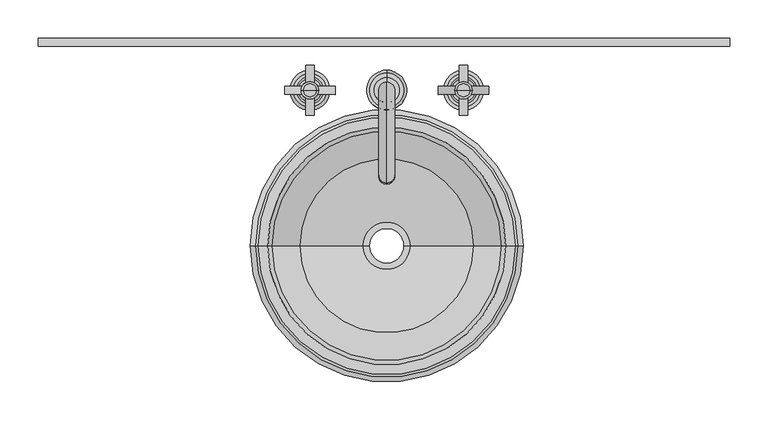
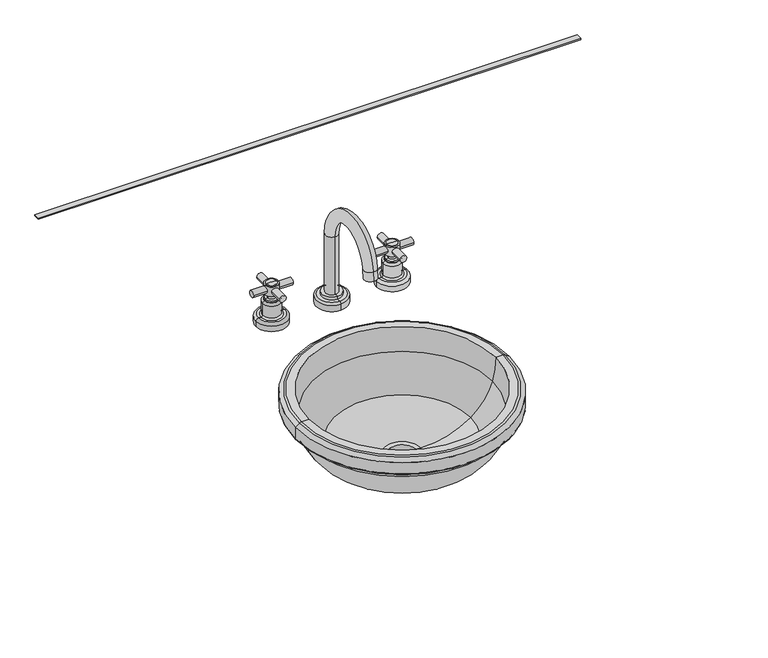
"""IFC4 building model written with IfcOpenShell, lengths in millimetres: furniture geometry, Mueble para Baño 6 : Único."""

from ifc_helpers import new_model, si_unit, point, frame, frame_2d, origin, place, context, project, spatial, polyline, circle_curve, ellipse_curve, trimmed, segment, composite_curve, outline, extrude, source, transform, mapped, element, save
from ifc_brep_helpers import plane_surface, cylinder_surface, revolved_surface, advanced_brep


def furniture_608dc11b(model_context):
    return source(origin(), model_context, "Body", "SolidModel", [
        extrude(outline(composite_curve([segment(trimmed(circle_curve(frame_2d((0.0, -5.4999999)), 5.5), [point((0.0, -11.0))], [point((0.0, 0.0))], False, "CARTESIAN"), True, "CONTINUOUS"), segment(trimmed(circle_curve(frame_2d((0.0, -5.4999999)), 5.5), [point((0.0, 0.0))], [point((0.0, -11.0))], False, "CARTESIAN"), True, "CONTINUOUS")], self_intersect=False)), frame((-63.6836472, -78.0672767, 1059.2357292), z_axis=(-0.9999993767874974, 0.0011164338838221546, 0.0), x_axis=(0.0, 0.0, -1.0)), (0.0, 0.0, 1.0), 65.6152585),
        extrude(outline(composite_curve([segment(trimmed(circle_curve(frame_2d((1059.2357292, -96.4851156)), 5.5), [point((1059.2357292, -90.9851156))], [point((1059.2357292, -101.9851156))], False, "CARTESIAN"), True, "CONTINUOUS"), segment(trimmed(circle_curve(frame_2d((1059.2357292, -96.4851156)), 5.5), [point((1059.2357292, -101.9851156))], [point((1059.2357292, -90.9851156))], False, "CARTESIAN"), True, "CONTINUOUS")], self_intersect=False)), frame((0.0, -105.3382819, 0.0), z_axis=(0.0, 1.0, 0.0), x_axis=(0.0, 0.0, 1.0)), (0.0, 0.0, 1.0), 65.6152585),
        advanced_brep(
        [(-118.4851156, -72.5, 1013.5), (-74.4851156, -72.5, 1013.5), (-70.4851156, -72.5, 1009.5), (-122.4851156, -72.5, 1009.5), (-114.4851156, -72.5, 1013.5), (-78.4851156, -72.5, 1013.5), (-96.4851156, -72.5, 1068.9), (-88.1085595, -72.5, 1068.4308463), (-104.8616718, -72.5, 1068.4308463), (-88.1085595, -72.5, 1067.3782178), (-104.8616718, -72.5, 1067.3782178), (-85.1732786, -72.5, 1067.3782178), (-107.7969527, -72.5, 1067.3782178), (-85.1732786, -72.5, 1051.2186869), (-107.7969527, -72.5, 1051.2186869), (-90.4851156, -72.5, 1051.2186869), (-102.4851156, -72.5, 1051.2186869), (-90.4851156, -72.5, 1043.25), (-102.4851156, -72.5, 1043.25), (-85.9851156, -72.5, 1042.75), (-106.9851156, -72.5, 1042.75), (-85.9851156, -72.5, 1040.25), (-106.9851156, -72.5, 1040.25), (-84.9851156, -72.5, 1040.25), (-107.9851156, -72.5, 1040.25), (-81.4851156, -72.5, 1036.75), (-111.4851156, -72.5, 1036.75), (-81.4851156, -72.5, 1016.5), (-111.4851156, -72.5, 1016.5), (-70.4851156, -72.5, 1000.0), (-122.4851156, -72.5, 1000.0), (-96.4851156, -72.5, 1000.0)],
        [
            (0, 1, circle_curve(frame((-96.4851156, -72.5, 1013.5), z_axis=(0.0, 0.0, -1.0), x_axis=(1.0, 0.0, 0.0)), 22.0)),
            (1, 2, circle_curve(frame((-74.4851156, -72.5, 1009.5), z_axis=(0.0, 1.0, 0.0), x_axis=(1.0, 0.0, 0.0)), 4.0)),
            (2, 3, circle_curve(frame((-96.4851156, -72.5, 1009.5), z_axis=(0.0, 0.0, 1.0), x_axis=(1.0, 0.0, 0.0)), 26.0)),
            (3, 0, circle_curve(frame((-118.4851156, -72.5, 1009.5), z_axis=(0.0, 1.0, 0.0), x_axis=(-1.0, 0.0, 0.0)), 4.0)),
            (1, 0, circle_curve(frame((-96.4851156, -72.5, 1013.5), z_axis=(0.0, 0.0, -1.0), x_axis=(1.0, 0.0, 0.0)), 22.0)),
            (3, 2, circle_curve(frame((-96.4851156, -72.5, 1009.5), z_axis=(0.0, 0.0, 1.0), x_axis=(1.0, 0.0, 0.0)), 26.0)),
            (4, 5, circle_curve(frame((-96.4851156, -72.5, 1013.5), z_axis=(0.0, 0.0, -1.0), x_axis=(1.0, 0.0, 0.0)), 18.0)),
            (5, 1),
            (0, 4),
            (5, 4, circle_curve(frame((-96.4851156, -72.5, 1013.5), z_axis=(0.0, 0.0, -1.0), x_axis=(1.0, 0.0, 0.0)), 18.0)),
            (6, 7, circle_curve(frame((-99.5198443, -72.5, 939.7014544), z_axis=(0.0, 1.0, 0.0), x_axis=(-1.0, 0.0, 0.0)), 129.2341819)),
            (7, 8, circle_curve(frame((-96.4851156, -72.5, 1068.4308463), z_axis=(0.0, 0.0, 1.0), x_axis=(1.0, 0.0, 0.0)), 8.3765562)),
            (8, 6, circle_curve(frame((-93.450387, -72.5, 939.7014544), z_axis=(0.0, 1.0, 0.0), x_axis=(1.0, 0.0, 0.0)), 129.2341819)),
            (8, 7, circle_curve(frame((-96.4851156, -72.5, 1068.4308463), z_axis=(0.0, 0.0, 1.0), x_axis=(1.0, 0.0, 0.0)), 8.3765562)),
            (7, 9),
            (9, 10, circle_curve(frame((-96.4851156, -72.5, 1067.3782178), z_axis=(0.0, 0.0, 1.0), x_axis=(1.0, 0.0, 0.0)), 8.3765562)),
            (10, 8),
            (10, 9, circle_curve(frame((-96.4851156, -72.5, 1067.3782178), z_axis=(0.0, 0.0, 1.0), x_axis=(1.0, 0.0, 0.0)), 8.3765562)),
            (9, 11),
            (11, 12, circle_curve(frame((-96.4851156, -72.5, 1067.3782178), z_axis=(0.0, 0.0, 1.0), x_axis=(1.0, 0.0, 0.0)), 11.3118371)),
            (12, 10),
            (12, 11, circle_curve(frame((-96.4851156, -72.5, 1067.3782178), z_axis=(0.0, 0.0, 1.0), x_axis=(1.0, 0.0, 0.0)), 11.3118371)),
            (11, 13),
            (13, 14, circle_curve(frame((-96.4851156, -72.5, 1051.2186869), z_axis=(0.0, 0.0, 1.0), x_axis=(1.0, 0.0, 0.0)), 11.3118371)),
            (14, 12),
            (14, 13, circle_curve(frame((-96.4851156, -72.5, 1051.2186869), z_axis=(0.0, 0.0, 1.0), x_axis=(1.0, 0.0, 0.0)), 11.3118371)),
            (13, 15),
            (15, 16, circle_curve(frame((-96.4851156, -72.5, 1051.2186869), z_axis=(0.0, 0.0, 1.0), x_axis=(1.0, 0.0, 0.0)), 6.0)),
            (16, 14),
            (16, 15, circle_curve(frame((-96.4851156, -72.5, 1051.2186869), z_axis=(0.0, 0.0, 1.0), x_axis=(1.0, 0.0, 0.0)), 6.0)),
            (15, 17),
            (17, 18, circle_curve(frame((-96.4851156, -72.5, 1043.25), z_axis=(0.0, 0.0, 1.0), x_axis=(1.0, 0.0, 0.0)), 6.0)),
            (18, 16),
            (18, 17, circle_curve(frame((-96.4851156, -72.5, 1043.25), z_axis=(0.0, 0.0, 1.0), x_axis=(1.0, 0.0, 0.0)), 6.0)),
            (17, 19),
            (19, 20, circle_curve(frame((-96.4851156, -72.5, 1042.75), z_axis=(0.0, 0.0, 1.0), x_axis=(1.0, 0.0, 0.0)), 10.5)),
            (20, 18),
            (20, 19, circle_curve(frame((-96.4851156, -72.5, 1042.75), z_axis=(0.0, 0.0, 1.0), x_axis=(1.0, 0.0, 0.0)), 10.5)),
            (19, 21),
            (21, 22, circle_curve(frame((-96.4851156, -72.5, 1040.25), z_axis=(0.0, 0.0, 1.0), x_axis=(1.0, 0.0, 0.0)), 10.5)),
            (22, 20),
            (22, 21, circle_curve(frame((-96.4851156, -72.5, 1040.25), z_axis=(0.0, 0.0, 1.0), x_axis=(1.0, 0.0, 0.0)), 10.5)),
            (21, 23),
            (23, 24, circle_curve(frame((-96.4851156, -72.5, 1040.25), z_axis=(0.0, 0.0, 1.0), x_axis=(1.0, 0.0, 0.0)), 11.5)),
            (24, 22),
            (24, 23, circle_curve(frame((-96.4851156, -72.5, 1040.25), z_axis=(0.0, 0.0, 1.0), x_axis=(1.0, 0.0, 0.0)), 11.5)),
            (23, 25, circle_curve(frame((-84.9851156, -72.5, 1036.75), z_axis=(0.0, 1.0, 0.0), x_axis=(-1.0, 0.0, 0.0)), 3.5)),
            (25, 26, circle_curve(frame((-96.4851156, -72.5, 1036.75), z_axis=(0.0, 0.0, 1.0), x_axis=(1.0, 0.0, 0.0)), 15.0)),
            (26, 24, circle_curve(frame((-107.9851156, -72.5, 1036.75), z_axis=(0.0, 1.0, 0.0), x_axis=(1.0, 0.0, 0.0)), 3.5)),
            (26, 25, circle_curve(frame((-96.4851156, -72.5, 1036.75), z_axis=(0.0, 0.0, 1.0), x_axis=(1.0, 0.0, 0.0)), 15.0)),
            (25, 27),
            (27, 28, circle_curve(frame((-96.4851156, -72.5, 1016.5), z_axis=(0.0, 0.0, 1.0), x_axis=(1.0, 0.0, 0.0)), 15.0)),
            (28, 26),
            (28, 27, circle_curve(frame((-96.4851156, -72.5, 1016.5), z_axis=(0.0, 0.0, 1.0), x_axis=(1.0, 0.0, 0.0)), 15.0)),
            (27, 5, circle_curve(frame((-78.4851156, -72.5, 1016.5), z_axis=(0.0, -1.0, 0.0), x_axis=(-1.0, 0.0, 0.0)), 3.0)),
            (4, 28, circle_curve(frame((-114.4851156, -72.5, 1016.5), z_axis=(0.0, -1.0, 0.0), x_axis=(1.0, 0.0, 0.0)), 3.0)),
            (2, 29),
            (29, 30, circle_curve(frame((-96.4851156, -72.5, 1000.0), z_axis=(0.0, 0.0, 1.0), x_axis=(1.0, 0.0, 0.0)), 26.0)),
            (30, 3),
            (30, 29, circle_curve(frame((-96.4851156, -72.5, 1000.0), z_axis=(0.0, 0.0, 1.0), x_axis=(1.0, 0.0, 0.0)), 26.0)),
            (29, 31),
            (31, 30),
        ],
        [
            revolved_surface(trimmed(ellipse_curve(frame((-74.4851156, -72.5, 1009.5), z_axis=(0.0, -1.0, 0.0), x_axis=(1.0, 0.0, 0.0)), 4.0, 4.0), [point((-70.4851156, -72.5, 1009.5))], [point((-74.4851156, -72.5, 1013.5))], True, "CARTESIAN"), (-96.4851156, -72.5, 1051.2186869), (0.0, 0.0, 1.0)),
            plane_surface(frame((-96.4851156, -72.5, 1013.5), z_axis=(0.0, 0.0, 1.0), x_axis=(1.0, 0.0, 0.0))),
            revolved_surface(trimmed(ellipse_curve(frame((-99.5198443, -72.5, 939.7014544), z_axis=(0.0, -1.0, 0.0), x_axis=(-1.0, 0.0, 0.0)), 129.2341819, 129.2341819), [point((-88.1085595, -72.5, 1068.4308463))], [point((-96.4851156, -72.5, 1068.9))], True, "CARTESIAN"), (-96.4851156, -72.5, 1051.2186869), (0.0, 0.0, 1.0)),
            cylinder_surface(frame((-96.4851156, -72.5, 1051.2186869), z_axis=(0.0, 0.0, 1.0), x_axis=(1.0, 0.0, 0.0)), 8.3765562),
            plane_surface(frame((-96.4851156, -72.5, 1067.3782178), z_axis=(0.0, 0.0, 1.0), x_axis=(1.0, 0.0, 0.0))),
            cylinder_surface(frame((-96.4851156, -72.5, 1051.2186869), z_axis=(0.0, 0.0, 1.0), x_axis=(1.0, 0.0, 0.0)), 11.3118371),
            plane_surface(frame((-96.4851156, -72.5, 1051.2186869), z_axis=(0.0, 0.0, -1.0), x_axis=(1.0, 0.0, 0.0))),
            cylinder_surface(frame((-96.4851156, -72.5, 1051.2186869), z_axis=(0.0, 0.0, 1.0), x_axis=(1.0, 0.0, 0.0)), 6.0),
            revolved_surface(polyline([(-85.9851156, -72.5, 1042.75), (-90.4851156, -72.5, 1043.25)]), (-96.4851156, -72.5, 1051.2186869), (0.0, 0.0, 1.0)),
            cylinder_surface(frame((-96.4851156, -72.5, 1051.2186869), z_axis=(0.0, 0.0, 1.0), x_axis=(1.0, 0.0, 0.0)), 10.5),
            plane_surface(frame((-96.4851156, -72.5, 1040.25), z_axis=(0.0, 0.0, 1.0), x_axis=(1.0, 0.0, 0.0))),
            revolved_surface(trimmed(ellipse_curve(frame((-84.9851156, -72.5, 1036.75), z_axis=(0.0, -1.0, 0.0), x_axis=(-1.0, 0.0, 0.0)), 3.5, 3.5), [point((-81.4851156, -72.5, 1036.75))], [point((-84.9851156, -72.5, 1040.25))], True, "CARTESIAN"), (-96.4851156, -72.5, 1051.2186869), (0.0, 0.0, 1.0)),
            cylinder_surface(frame((-96.4851156, -72.5, 1051.2186869), z_axis=(0.0, 0.0, 1.0), x_axis=(1.0, 0.0, 0.0)), 15.0),
            revolved_surface(trimmed(ellipse_curve(frame((-78.4851156, -72.5, 1016.5), z_axis=(0.0, 1.0, 0.0), x_axis=(-1.0, 0.0, 0.0)), 3.0, 3.0), [point((-78.4851156, -72.5, 1013.5))], [point((-81.4851156, -72.5, 1016.5))], True, "CARTESIAN"), (-96.4851156, -72.5, 1051.2186869), (0.0, 0.0, 1.0)),
            cylinder_surface(frame((-96.4851156, -72.5, 1051.2186869), z_axis=(0.0, 0.0, 1.0), x_axis=(1.0, 0.0, 0.0)), 26.0),
            plane_surface(frame((-96.4851156, -72.5, 1000.0), z_axis=(0.0, 0.0, -1.0), x_axis=(1.0, 0.0, 0.0))),
        ],
        [
            (0, [[1, 2, 3, 4]]),
            (0, [[5, -4, 6, -2]]),
            (1, [[7, 8, -1, 9]]),
            (1, [[10, -9, -5, -8]]),
            (2, [[11, 12, 13]]),
            (2, [[-13, 14, -11]]),
            (3, [[-12, 15, 16, 17]]),
            (3, [[-14, -17, 18, -15]]),
            (4, [[-16, 19, 20, 21]]),
            (4, [[-18, -21, 22, -19]]),
            (5, [[-20, 23, 24, 25]]),
            (5, [[-22, -25, 26, -23]]),
            (6, [[-24, 27, 28, 29]]),
            (6, [[-26, -29, 30, -27]]),
            (7, [[-28, 31, 32, 33]]),
            (7, [[-30, -33, 34, -31]]),
            (8, [[-32, 35, 36, 37]]),
            (8, [[-34, -37, 38, -35]]),
            (9, [[-36, 39, 40, 41]]),
            (9, [[-38, -41, 42, -39]]),
            (10, [[-40, 43, 44, 45]]),
            (10, [[-42, -45, 46, -43]]),
            (11, [[-44, 47, 48, 49]]),
            (11, [[-46, -49, 50, -47]]),
            (12, [[-48, 51, 52, 53]]),
            (12, [[-50, -53, 54, -51]]),
            (13, [[-52, 55, -7, 56]]),
            (13, [[-54, -56, -10, -55]]),
            (14, [[-3, 57, 58, 59]]),
            (14, [[-6, -59, 60, -57]]),
            (15, [[-58, 61, 62]]),
            (15, [[-60, -62, -61]]),
        ],
    ),
        extrude(outline(composite_curve([segment(trimmed(circle_curve(frame_2d((0.0, -5.4999999)), 5.5), [point((0.0, -11.0))], [point((0.0, 0.0))], False, "CARTESIAN"), True, "CONTINUOUS"), segment(trimmed(circle_curve(frame_2d((0.0, -5.4999999)), 5.5), [point((0.0, 0.0))], [point((0.0, -11.0))], False, "CARTESIAN"), True, "CONTINUOUS")], self_intersect=False)), frame((70.7134159, -78.0672767, 1059.2357292), z_axis=(0.9999993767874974, 0.0011164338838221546, 0.0), x_axis=(0.0, 0.0, 1.0)), (0.0, 0.0, 1.0), 65.6152585),
        extrude(outline(composite_curve([segment(trimmed(circle_curve(frame_2d((1059.2357292, 103.5148844)), 5.5), [point((1059.2357292, 98.0148844))], [point((1059.2357292, 109.0148844))], False, "CARTESIAN"), True, "CONTINUOUS"), segment(trimmed(circle_curve(frame_2d((1059.2357292, 103.5148844)), 5.5), [point((1059.2357292, 109.0148844))], [point((1059.2357292, 98.0148844))], False, "CARTESIAN"), True, "CONTINUOUS")], self_intersect=False)), frame((0.0, -105.3382819, 0.0), z_axis=(0.0, 1.0, 0.0), x_axis=(0.0, 0.0, 1.0)), (0.0, 0.0, 1.0), 65.6152585),
        advanced_brep(
        [(129.5148844, -72.5, 1009.5), (77.5148844, -72.5, 1009.5), (81.5148844, -72.5, 1013.5), (125.5148844, -72.5, 1013.5), (85.5148844, -72.5, 1013.5), (121.5148844, -72.5, 1013.5), (111.8914405, -72.5, 1068.4308463), (95.1383282, -72.5, 1068.4308463), (103.5148844, -72.5, 1068.9), (111.8914405, -72.5, 1067.3782178), (95.1383282, -72.5, 1067.3782178), (114.8267214, -72.5, 1067.3782178), (92.2030473, -72.5, 1067.3782178), (114.8267214, -72.5, 1051.2186869), (92.2030473, -72.5, 1051.2186869), (109.5148844, -72.5, 1051.2186869), (97.5148844, -72.5, 1051.2186869), (109.5148844, -72.5, 1043.25), (97.5148844, -72.5, 1043.25), (114.0148844, -72.5, 1042.75), (93.0148844, -72.5, 1042.75), (114.0148844, -72.5, 1040.25), (93.0148844, -72.5, 1040.25), (115.0148844, -72.5, 1040.25), (92.0148844, -72.5, 1040.25), (118.5148844, -72.5, 1036.75), (88.5148844, -72.5, 1036.75), (118.5148844, -72.5, 1016.5), (88.5148844, -72.5, 1016.5), (129.5148844, -72.5, 1000.0), (77.5148844, -72.5, 1000.0), (103.5148844, -72.5, 1000.0)],
        [
            (0, 1, circle_curve(frame((103.5148844, -72.5, 1009.5), z_axis=(0.0, 0.0, 1.0), x_axis=(-1.0, 0.0, 0.0)), 26.0)),
            (1, 2, circle_curve(frame((81.5148844, -72.5, 1009.5), z_axis=(0.0, 1.0, 0.0), x_axis=(-1.0, 0.0, 0.0)), 4.0)),
            (2, 3, circle_curve(frame((103.5148844, -72.5, 1013.5), z_axis=(0.0, 0.0, -1.0), x_axis=(-1.0, 0.0, 0.0)), 22.0)),
            (3, 0, circle_curve(frame((125.5148844, -72.5, 1009.5), z_axis=(0.0, 1.0, 0.0), x_axis=(1.0, 0.0, 0.0)), 4.0)),
            (1, 0, circle_curve(frame((103.5148844, -72.5, 1009.5), z_axis=(0.0, 0.0, 1.0), x_axis=(-1.0, 0.0, 0.0)), 26.0)),
            (3, 2, circle_curve(frame((103.5148844, -72.5, 1013.5), z_axis=(0.0, 0.0, -1.0), x_axis=(-1.0, 0.0, 0.0)), 22.0)),
            (2, 4),
            (4, 5, circle_curve(frame((103.5148844, -72.5, 1013.5), z_axis=(0.0, 0.0, -1.0), x_axis=(-1.0, 0.0, 0.0)), 18.0)),
            (5, 3),
            (5, 4, circle_curve(frame((103.5148844, -72.5, 1013.5), z_axis=(0.0, 0.0, -1.0), x_axis=(-1.0, 0.0, 0.0)), 18.0)),
            (6, 7, circle_curve(frame((103.5148844, -72.5, 1068.4308463), z_axis=(0.0, 0.0, 1.0), x_axis=(-1.0, 0.0, 0.0)), 8.3765562)),
            (7, 8, circle_curve(frame((106.549613, -72.5, 939.7014544), z_axis=(0.0, 1.0, 0.0), x_axis=(1.0, 0.0, 0.0)), 129.2341819)),
            (8, 6, circle_curve(frame((100.4801557, -72.5, 939.7014544), z_axis=(0.0, 1.0, 0.0), x_axis=(-1.0, 0.0, 0.0)), 129.2341819)),
            (7, 6, circle_curve(frame((103.5148844, -72.5, 1068.4308463), z_axis=(0.0, 0.0, 1.0), x_axis=(-1.0, 0.0, 0.0)), 8.3765562)),
            (9, 10, circle_curve(frame((103.5148844, -72.5, 1067.3782178), z_axis=(0.0, 0.0, 1.0), x_axis=(-1.0, 0.0, 0.0)), 8.3765562)),
            (10, 7),
            (6, 9),
            (10, 9, circle_curve(frame((103.5148844, -72.5, 1067.3782178), z_axis=(0.0, 0.0, 1.0), x_axis=(-1.0, 0.0, 0.0)), 8.3765562)),
            (11, 12, circle_curve(frame((103.5148844, -72.5, 1067.3782178), z_axis=(0.0, 0.0, 1.0), x_axis=(-1.0, 0.0, 0.0)), 11.3118371)),
            (12, 10),
            (9, 11),
            (12, 11, circle_curve(frame((103.5148844, -72.5, 1067.3782178), z_axis=(0.0, 0.0, 1.0), x_axis=(-1.0, 0.0, 0.0)), 11.3118371)),
            (13, 14, circle_curve(frame((103.5148844, -72.5, 1051.2186869), z_axis=(0.0, 0.0, 1.0), x_axis=(-1.0, 0.0, 0.0)), 11.3118371)),
            (14, 12),
            (11, 13),
            (14, 13, circle_curve(frame((103.5148844, -72.5, 1051.2186869), z_axis=(0.0, 0.0, 1.0), x_axis=(-1.0, 0.0, 0.0)), 11.3118371)),
            (15, 16, circle_curve(frame((103.5148844, -72.5, 1051.2186869), z_axis=(0.0, 0.0, 1.0), x_axis=(-1.0, 0.0, 0.0)), 6.0)),
            (16, 14),
            (13, 15),
            (16, 15, circle_curve(frame((103.5148844, -72.5, 1051.2186869), z_axis=(0.0, 0.0, 1.0), x_axis=(-1.0, 0.0, 0.0)), 6.0)),
            (17, 18, circle_curve(frame((103.5148844, -72.5, 1043.25), z_axis=(0.0, 0.0, 1.0), x_axis=(-1.0, 0.0, 0.0)), 6.0)),
            (18, 16),
            (15, 17),
            (18, 17, circle_curve(frame((103.5148844, -72.5, 1043.25), z_axis=(0.0, 0.0, 1.0), x_axis=(-1.0, 0.0, 0.0)), 6.0)),
            (19, 20, circle_curve(frame((103.5148844, -72.5, 1042.75), z_axis=(0.0, 0.0, 1.0), x_axis=(-1.0, 0.0, 0.0)), 10.5)),
            (20, 18),
            (17, 19),
            (20, 19, circle_curve(frame((103.5148844, -72.5, 1042.75), z_axis=(0.0, 0.0, 1.0), x_axis=(-1.0, 0.0, 0.0)), 10.5)),
            (21, 22, circle_curve(frame((103.5148844, -72.5, 1040.25), z_axis=(0.0, 0.0, 1.0), x_axis=(-1.0, 0.0, 0.0)), 10.5)),
            (22, 20),
            (19, 21),
            (22, 21, circle_curve(frame((103.5148844, -72.5, 1040.25), z_axis=(0.0, 0.0, 1.0), x_axis=(-1.0, 0.0, 0.0)), 10.5)),
            (23, 24, circle_curve(frame((103.5148844, -72.5, 1040.25), z_axis=(0.0, 0.0, 1.0), x_axis=(-1.0, 0.0, 0.0)), 11.5)),
            (24, 22),
            (21, 23),
            (24, 23, circle_curve(frame((103.5148844, -72.5, 1040.25), z_axis=(0.0, 0.0, 1.0), x_axis=(-1.0, 0.0, 0.0)), 11.5)),
            (25, 26, circle_curve(frame((103.5148844, -72.5, 1036.75), z_axis=(0.0, 0.0, 1.0), x_axis=(-1.0, 0.0, 0.0)), 15.0)),
            (26, 24, circle_curve(frame((92.0148844, -72.5, 1036.75), z_axis=(0.0, 1.0, 0.0), x_axis=(1.0, 0.0, 0.0)), 3.5)),
            (23, 25, circle_curve(frame((115.0148844, -72.5, 1036.75), z_axis=(0.0, 1.0, 0.0), x_axis=(-1.0, 0.0, 0.0)), 3.5)),
            (26, 25, circle_curve(frame((103.5148844, -72.5, 1036.75), z_axis=(0.0, 0.0, 1.0), x_axis=(-1.0, 0.0, 0.0)), 15.0)),
            (27, 28, circle_curve(frame((103.5148844, -72.5, 1016.5), z_axis=(0.0, 0.0, 1.0), x_axis=(-1.0, 0.0, 0.0)), 15.0)),
            (28, 26),
            (25, 27),
            (28, 27, circle_curve(frame((103.5148844, -72.5, 1016.5), z_axis=(0.0, 0.0, 1.0), x_axis=(-1.0, 0.0, 0.0)), 15.0)),
            (4, 28, circle_curve(frame((85.5148844, -72.5, 1016.5), z_axis=(0.0, -1.0, 0.0), x_axis=(1.0, 0.0, 0.0)), 3.0)),
            (27, 5, circle_curve(frame((121.5148844, -72.5, 1016.5), z_axis=(0.0, -1.0, 0.0), x_axis=(-1.0, 0.0, 0.0)), 3.0)),
            (29, 30, circle_curve(frame((103.5148844, -72.5, 1000.0), z_axis=(0.0, 0.0, 1.0), x_axis=(-1.0, 0.0, 0.0)), 26.0)),
            (30, 1),
            (0, 29),
            (30, 29, circle_curve(frame((103.5148844, -72.5, 1000.0), z_axis=(0.0, 0.0, 1.0), x_axis=(-1.0, 0.0, 0.0)), 26.0)),
            (31, 30),
            (29, 31),
        ],
        [
            revolved_surface(trimmed(ellipse_curve(frame((81.5148844, -72.5, 1009.5), z_axis=(0.0, -1.0, 0.0), x_axis=(-1.0, 0.0, 0.0)), 4.0, 4.0), [point((81.5148844, -72.5, 1013.5))], [point((77.5148844, -72.5, 1009.5))], True, "CARTESIAN"), (103.5148844, -72.5, 1051.2186869), (0.0, 0.0, -1.0)),
            plane_surface(frame((103.5148844, -72.5, 1013.5), z_axis=(0.0, 0.0, 1.0), x_axis=(-1.0, 0.0, 0.0))),
            revolved_surface(trimmed(ellipse_curve(frame((106.549613, -72.5, 939.7014544), z_axis=(0.0, -1.0, 0.0), x_axis=(1.0, 0.0, 0.0)), 129.2341819, 129.2341819), [point((103.5148844, -72.5, 1068.9))], [point((95.1383282, -72.5, 1068.4308463))], True, "CARTESIAN"), (103.5148844, -72.5, 1051.2186869), (0.0, 0.0, -1.0)),
            cylinder_surface(frame((103.5148844, -72.5, 1051.2186869), z_axis=(0.0, 0.0, -1.0), x_axis=(-1.0, 0.0, 0.0)), 8.3765562),
            plane_surface(frame((103.5148844, -72.5, 1067.3782178), z_axis=(0.0, 0.0, 1.0), x_axis=(-1.0, 0.0, 0.0))),
            cylinder_surface(frame((103.5148844, -72.5, 1051.2186869), z_axis=(0.0, 0.0, -1.0), x_axis=(-1.0, 0.0, 0.0)), 11.3118371),
            plane_surface(frame((103.5148844, -72.5, 1051.2186869), z_axis=(0.0, 0.0, -1.0), x_axis=(-1.0, 0.0, 0.0))),
            cylinder_surface(frame((103.5148844, -72.5, 1051.2186869), z_axis=(0.0, 0.0, -1.0), x_axis=(-1.0, 0.0, 0.0)), 6.0),
            revolved_surface(polyline([(97.5148844, -72.5, 1043.25), (93.0148844, -72.5, 1042.75)]), (103.5148844, -72.5, 1051.2186869), (0.0, 0.0, -1.0)),
            cylinder_surface(frame((103.5148844, -72.5, 1051.2186869), z_axis=(0.0, 0.0, -1.0), x_axis=(-1.0, 0.0, 0.0)), 10.5),
            plane_surface(frame((103.5148844, -72.5, 1040.25), z_axis=(0.0, 0.0, 1.0), x_axis=(-1.0, 0.0, 0.0))),
            revolved_surface(trimmed(ellipse_curve(frame((92.0148844, -72.5, 1036.75), z_axis=(0.0, -1.0, 0.0), x_axis=(1.0, 0.0, 0.0)), 3.5, 3.5), [point((92.0148844, -72.5, 1040.25))], [point((88.5148844, -72.5, 1036.75))], True, "CARTESIAN"), (103.5148844, -72.5, 1051.2186869), (0.0, 0.0, -1.0)),
            cylinder_surface(frame((103.5148844, -72.5, 1051.2186869), z_axis=(0.0, 0.0, -1.0), x_axis=(-1.0, 0.0, 0.0)), 15.0),
            revolved_surface(trimmed(ellipse_curve(frame((85.5148844, -72.5, 1016.5), z_axis=(0.0, 1.0, 0.0), x_axis=(1.0, 0.0, 0.0)), 3.0, 3.0), [point((88.5148844, -72.5, 1016.5))], [point((85.5148844, -72.5, 1013.5))], True, "CARTESIAN"), (103.5148844, -72.5, 1051.2186869), (0.0, 0.0, -1.0)),
            cylinder_surface(frame((103.5148844, -72.5, 1051.2186869), z_axis=(0.0, 0.0, -1.0), x_axis=(-1.0, 0.0, 0.0)), 26.0),
            plane_surface(frame((103.5148844, -72.5, 1000.0), z_axis=(0.0, 0.0, -1.0), x_axis=(-1.0, 0.0, 0.0))),
        ],
        [
            (0, [[1, 2, 3, 4]]),
            (0, [[5, -4, 6, -2]]),
            (1, [[-3, 7, 8, 9]]),
            (1, [[-6, -9, 10, -7]]),
            (2, [[11, 12, 13]]),
            (2, [[14, -13, -12]]),
            (3, [[15, 16, -11, 17]]),
            (3, [[18, -17, -14, -16]]),
            (4, [[19, 20, -15, 21]]),
            (4, [[22, -21, -18, -20]]),
            (5, [[23, 24, -19, 25]]),
            (5, [[26, -25, -22, -24]]),
            (6, [[27, 28, -23, 29]]),
            (6, [[30, -29, -26, -28]]),
            (7, [[31, 32, -27, 33]]),
            (7, [[34, -33, -30, -32]]),
            (8, [[35, 36, -31, 37]]),
            (8, [[38, -37, -34, -36]]),
            (9, [[39, 40, -35, 41]]),
            (9, [[42, -41, -38, -40]]),
            (10, [[43, 44, -39, 45]]),
            (10, [[46, -45, -42, -44]]),
            (11, [[47, 48, -43, 49]]),
            (11, [[50, -49, -46, -48]]),
            (12, [[51, 52, -47, 53]]),
            (12, [[54, -53, -50, -52]]),
            (13, [[-8, 55, -51, 56]]),
            (13, [[-10, -56, -54, -55]]),
            (14, [[57, 58, -1, 59]]),
            (14, [[60, -59, -5, -58]]),
            (15, [[61, -57, 62]]),
            (15, [[-62, -60, -61]]),
        ],
    ),
        advanced_brep(
        [(3.5148844, -61.835431, 1119.7202096), (3.5148844, -193.4626961, 1125.0209236), (3.5148844, -172.5306982, 1123.3322953), (3.5148844, -82.835431, 1119.7202096), (3.5148844, -82.835431, 1018.5439889), (3.5148844, -61.835431, 1018.5439889), (3.5148844, -173.7692873, 1107.9789202), (3.5148844, -194.7012852, 1109.6675485)],
        [
            (0, 1, circle_curve(frame((3.5148844, -127.7557951, 1119.7202096), z_axis=(1.0, 0.0, 0.0), x_axis=(0.0, -0.9967618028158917, 0.0804108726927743)), 65.9203641)),
            (1, 2, circle_curve(frame((3.5148844, -182.9966972, 1124.1766094), z_axis=(0.0, 0.08041087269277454, 0.9967618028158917), x_axis=(0.0, -0.9967618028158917, 0.08041087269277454)), 10.5)),
            (2, 3, circle_curve(frame((3.5148844, -127.7557951, 1119.7202096), z_axis=(-1.0, 0.0, 0.0), x_axis=(0.0, -0.9967618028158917, 0.0804108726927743)), 44.9203641)),
            (3, 0, circle_curve(frame((3.5148844, -72.335431, 1119.7202096), z_axis=(0.0, 0.0, 1.0), x_axis=(0.0, 1.0, 0.0)), 10.5)),
            (2, 1, circle_curve(frame((3.5148844, -182.9966972, 1124.1766094), z_axis=(0.0, 0.08041087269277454, 0.9967618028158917), x_axis=(0.0, -0.9967618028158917, 0.08041087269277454)), 10.5)),
            (0, 3, circle_curve(frame((3.5148844, -72.335431, 1119.7202096), z_axis=(0.0, 0.0, 1.0), x_axis=(0.0, 1.0, 0.0)), 10.5)),
            (4, 5, circle_curve(frame((3.5148844, -72.335431, 1018.5439889), z_axis=(0.0, 0.0, -1.0), x_axis=(0.0, 1.0, 0.0)), 10.5)),
            (5, 4, circle_curve(frame((3.5148844, -72.335431, 1018.5439889), z_axis=(0.0, 0.0, -1.0), x_axis=(0.0, 1.0, 0.0)), 10.5)),
            (3, 4),
            (5, 0),
            (6, 7, circle_curve(frame((3.5148844, -184.2352863, 1108.8232344), z_axis=(0.0, -0.08041087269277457, -0.9967618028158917), x_axis=(0.0, -0.9967618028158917, 0.08041087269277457)), 10.5)),
            (7, 6, circle_curve(frame((3.5148844, -184.2352863, 1108.8232344), z_axis=(0.0, -0.08041087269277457, -0.9967618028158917), x_axis=(0.0, -0.9967618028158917, 0.08041087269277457)), 10.5)),
            (6, 2),
            (1, 7),
        ],
        [
            revolved_surface(trimmed(ellipse_curve(frame((3.5148844, -182.9966972, 1124.1766094), z_axis=(0.0, -0.08041087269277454, -0.9967618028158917), x_axis=(0.0, -0.9967618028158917, 0.08041087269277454)), 10.5, 10.5), [point((3.5148844, -172.5306982, 1123.3322953))], [point((3.5148844, -193.4626961, 1125.0209236))], True, "CARTESIAN"), (3.5148844, -127.7557951, 1119.7202096), (-1.0, 0.0, 0.0)),
            revolved_surface(trimmed(ellipse_curve(frame((3.5148844, -182.9966972, 1124.1766094), z_axis=(0.0, -0.08041087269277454, -0.9967618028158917), x_axis=(0.0, -0.9967618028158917, 0.08041087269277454)), 10.5, 10.5), [point((3.5148844, -193.4626961, 1125.0209236))], [point((3.5148844, -172.5306982, 1123.3322953))], True, "CARTESIAN"), (3.5148844, -127.7557951, 1119.7202096), (-1.0, 0.0, 0.0)),
            plane_surface(frame((3.5148844, -72.335431, 1018.5439889), z_axis=(0.0, 0.0, -1.0), x_axis=(1.0, 0.0, 0.0))),
            cylinder_surface(frame((3.5148844, -72.335431, 1119.7202096), z_axis=(0.0, 0.0, 1.0), x_axis=(0.0, 1.0, 0.0)), 10.5),
            plane_surface(frame((3.5148844, -184.2352863, 1108.8232344), z_axis=(0.0, -0.08041087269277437, -0.9967618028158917), x_axis=(1.0, 0.0, 0.0))),
            cylinder_surface(frame((3.5148844, -184.2352863, 1108.8232344), z_axis=(0.0, -0.08041087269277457, -0.9967618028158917), x_axis=(0.0, -0.9967618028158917, 0.08041087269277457)), 10.5),
        ],
        [
            (0, [[1, 2, 3, 4]]),
            (1, [[-3, 5, -1, 6]]),
            (2, [[7, 8]]),
            (3, [[-4, 9, -8, 10]]),
            (3, [[-6, -10, -7, -9]]),
            (4, [[11, 12]]),
            (5, [[-11, 13, -2, 14]]),
            (5, [[-12, -14, -5, -13]]),
        ],
    ),
        advanced_brep(
        [(3.5148844, -98.5135918, 1010.5885767), (3.5148844, -46.5136673, 1010.4999848), (3.5148844, -46.531556, 1000.0), (3.5148844, -98.5314806, 1000.0885919), (3.5148844, -95.2319116, 1013.5829901), (3.5148844, -49.7851253, 1013.5055627), (3.5148844, -89.0084945, 1013.5723873), (3.5148844, -56.0085424, 1013.5161655), (3.5148844, -88.9999761, 1018.57238), (3.5148844, -56.0000239, 1018.5161582), (3.5148844, -72.5, 1018.5442691), (3.5148844, -72.5315183, 1000.044296)],
        [
            (0, 1, circle_curve(frame((3.5148844, -72.5136295, 1010.5442807), z_axis=(0.0, -0.0017036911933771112, -0.9999985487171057), x_axis=(0.0, 0.9999985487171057, -0.0017036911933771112)), 26.0)),
            (1, 2),
            (2, 3, circle_curve(frame((3.5148844, -72.5315183, 1000.044296), z_axis=(0.0, 0.0017036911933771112, 0.9999985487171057), x_axis=(0.0, 0.9999985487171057, -0.0017036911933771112)), 26.0)),
            (3, 0),
            (1, 0, circle_curve(frame((3.5148844, -72.5136295, 1010.5442807), z_axis=(0.0, -0.0017036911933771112, -0.9999985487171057), x_axis=(0.0, 0.9999985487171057, -0.0017036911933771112)), 26.0)),
            (3, 2, circle_curve(frame((3.5148844, -72.5315183, 1000.044296), z_axis=(0.0, 0.0017036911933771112, 0.9999985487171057), x_axis=(0.0, 0.9999985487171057, -0.0017036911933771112)), 26.0)),
            (4, 5, circle_curve(frame((3.5148844, -72.5085185, 1013.5442764), z_axis=(0.0, -0.0017036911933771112, -0.9999985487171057), x_axis=(0.0, 0.9999985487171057, -0.0017036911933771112)), 22.7234262)),
            (5, 1, circle_curve(frame((3.5148844, -49.5253356, 1010.5051157), z_axis=(-1.0, 0.0, 0.0), x_axis=(0.0, -0.9999985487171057, 0.0017036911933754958)), 3.0116727)),
            (0, 4, circle_curve(frame((3.5148844, -95.5019234, 1010.5834457), z_axis=(-1.0, 0.0, 0.0), x_axis=(0.0, 0.9999985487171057, -0.0017036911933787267)), 3.0116727)),
            (5, 4, circle_curve(frame((3.5148844, -72.5085185, 1013.5442764), z_axis=(0.0, -0.0017036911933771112, -0.9999985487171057), x_axis=(0.0, 0.9999985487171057, -0.0017036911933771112)), 22.7234262)),
            (6, 7, circle_curve(frame((3.5148844, -72.5085185, 1013.5442764), z_axis=(0.0, -0.0017036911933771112, -0.9999985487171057), x_axis=(0.0, 0.9999985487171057, -0.0017036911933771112)), 16.5)),
            (7, 5),
            (4, 6),
            (7, 6, circle_curve(frame((3.5148844, -72.5085185, 1013.5442764), z_axis=(0.0, -0.0017036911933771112, -0.9999985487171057), x_axis=(0.0, 0.9999985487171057, -0.0017036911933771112)), 16.5)),
            (8, 9, circle_curve(frame((3.5148844, -72.5, 1018.5442691), z_axis=(0.0, -0.0017036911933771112, -0.9999985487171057), x_axis=(0.0, 0.9999985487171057, -0.0017036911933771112)), 16.5)),
            (9, 7),
            (6, 8),
            (9, 8, circle_curve(frame((3.5148844, -72.5, 1018.5442691), z_axis=(0.0, -0.0017036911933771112, -0.9999985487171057), x_axis=(0.0, 0.9999985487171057, -0.0017036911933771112)), 16.5)),
            (10, 9),
            (8, 10),
            (2, 11),
            (11, 3),
        ],
        [
            cylinder_surface(frame((3.5148844, -72.5, 1018.5442691), z_axis=(0.0, 0.0017036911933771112, 0.9999985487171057), x_axis=(0.0, 0.9999985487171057, -0.0017036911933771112)), 26.0),
            revolved_surface(trimmed(ellipse_curve(frame((3.5148844, -49.5253356, 1010.5051157), z_axis=(1.0, 0.0, 0.0), x_axis=(0.0, -0.9999985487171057, 0.0017036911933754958)), 3.0116727, 3.0116727), [point((3.5148844, -46.5136673, 1010.4999848))], [point((3.5148844, -49.7851253, 1013.5055627))], True, "CARTESIAN"), (3.5148844, -72.5, 1018.5442691), (0.0, 0.0017036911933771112, 0.9999985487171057)),
            plane_surface(frame((3.5148844, -72.5085185, 1013.5442764), z_axis=(0.0, 0.0017036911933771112, 0.9999985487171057), x_axis=(0.0, 0.9999985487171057, -0.0017036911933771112))),
            cylinder_surface(frame((3.5148844, -72.5, 1018.5442691), z_axis=(0.0, 0.0017036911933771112, 0.9999985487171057), x_axis=(0.0, 0.9999985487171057, -0.0017036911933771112)), 16.5),
            plane_surface(frame((3.5148844, -72.5, 1018.5442691), z_axis=(0.0, 0.0017036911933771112, 0.9999985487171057), x_axis=(0.0, 0.9999985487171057, -0.0017036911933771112))),
            plane_surface(frame((3.5148844, -72.5315183, 1000.044296), z_axis=(0.0, -0.0017036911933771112, -0.9999985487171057), x_axis=(0.0, 0.9999985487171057, -0.0017036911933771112))),
        ],
        [
            (0, [[1, 2, 3, 4]]),
            (0, [[5, -4, 6, -2]]),
            (1, [[7, 8, -1, 9]]),
            (1, [[10, -9, -5, -8]]),
            (2, [[11, 12, -7, 13]]),
            (2, [[14, -13, -10, -12]]),
            (3, [[15, 16, -11, 17]]),
            (3, [[18, -17, -14, -16]]),
            (4, [[19, -15, 20]]),
            (4, [[-20, -18, -19]]),
            (5, [[-3, 21, 22]]),
            (5, [[-6, -22, -21]]),
        ],
    ),
        advanced_brep(
        [(-28.6354838, -275.0, 827.1503651), (35.6652525, -275.0, 827.1503651), (33.5148844, -275.0, 825.0009909), (-26.4851156, -275.0, 825.0009909), (-29.4238552, -275.0, 838.4246007), (36.4536239, -275.0, 838.4246007), (-116.8361457, -275.0, 869.9582987), (123.8659144, -275.0, 869.9582987), (45.7787507, -275.0, 843.1416288), (-38.748982, -275.0, 843.1416288), (-157.05662, -275.0, 927.3990889), (164.0863887, -275.0, 927.3990889), (-159.2405092, -275.0, 935.6847396), (166.2702779, -275.0, 935.6847396), (-159.7017776, -275.0, 937.6155916), (166.7315464, -275.0, 937.6155916), (-159.9824297, -275.0, 939.502406), (167.0121984, -275.0, 939.502406), (-162.8549958, -275.0, 942.0888762), (169.8847645, -275.0, 942.0888762), (-171.819765, -275.0, 942.0888762), (178.8495337, -275.0, 942.0888762), (-173.9851156, -275.0, 944.0898671), (181.0148844, -275.0, 944.0898671), (-173.9851156, -275.0, 964.0), (181.0148844, -275.0, 964.0), (-167.6621352, -275.0, 968.9400538), (174.6919039, -275.0, 968.9400538), (-164.3999561, -275.0, 970.0), (171.4297248, -275.0, 970.0), (-151.3661108, -275.0, 970.0), (158.3958795, -275.0, 970.0), (-109.7827227, -275.0, 879.6665027), (116.8124914, -275.0, 879.6665027), (152.5512483, -275.0, 930.7067372), (-145.5214796, -275.0, 930.7067372), (-27.4851156, -275.0, 855.2316818), (34.5148844, -275.0, 855.2316818), (-18.9851156, -275.0, 825.0009909), (26.0148844, -275.0, 825.0009909), (26.0148844, -275.0, 855.2316818), (-18.9851156, -275.0, 855.2316818), (-33.3819117, -275.0, 843.1416288), (40.4116804, -275.0, 843.1416288)],
        [
            (0, 1, circle_curve(frame((3.5148844, -275.0, 827.1503651), z_axis=(0.0, 0.0, -1.0), x_axis=(1.0, 0.0, 0.0)), 32.1503682)),
            (1, 2, circle_curve(frame((33.5148844, -275.0, 827.1513593), z_axis=(0.0, 1.0, 0.0), x_axis=(1.0, 0.0, 0.0)), 2.1503684)),
            (2, 3, circle_curve(frame((3.5148844, -275.0, 825.0009909), z_axis=(0.0, 0.0, 1.0), x_axis=(1.0, 0.0, 0.0)), 30.0)),
            (3, 0, circle_curve(frame((-26.4851156, -275.0, 827.1513593), z_axis=(0.0, 1.0, 0.0), x_axis=(-1.0, 0.0, 0.0)), 2.1503684)),
            (1, 0, circle_curve(frame((3.5148844, -275.0, 827.1503651), z_axis=(0.0, 0.0, -1.0), x_axis=(1.0, 0.0, 0.0)), 32.1503682)),
            (3, 2, circle_curve(frame((3.5148844, -275.0, 825.0009909), z_axis=(0.0, 0.0, 1.0), x_axis=(1.0, 0.0, 0.0)), 30.0)),
            (4, 5, circle_curve(frame((3.5148844, -275.0, 838.4246007), z_axis=(0.0, 0.0, -1.0), x_axis=(1.0, 0.0, 0.0)), 32.9387395)),
            (5, 1),
            (0, 4),
            (5, 4, circle_curve(frame((3.5148844, -275.0, 838.4246007), z_axis=(0.0, 0.0, -1.0), x_axis=(1.0, 0.0, 0.0)), 32.9387395)),
            (6, 7, circle_curve(frame((3.5148844, -275.0, 869.9582987), z_axis=(0.0, 0.0, -1.0), x_axis=(1.0, 0.0, 0.0)), 120.35103)),
            (7, 8, circle_curve(frame((41.0926618, -275.0, 983.8859071), z_axis=(0.0, 1.0, 0.0), x_axis=(1.0, 0.0, 0.0)), 140.8222685)),
            (8, 9, circle_curve(frame((3.5148844, -275.0, 843.1416288), z_axis=(0.0, 0.0, 1.0), x_axis=(1.0, 0.0, 0.0)), 42.2638663)),
            (9, 6, circle_curve(frame((-34.0628931, -275.0, 983.8859071), z_axis=(0.0, 1.0, 0.0), x_axis=(-1.0, 0.0, 0.0)), 140.8222685)),
            (7, 6, circle_curve(frame((3.5148844, -275.0, 869.9582987), z_axis=(0.0, 0.0, -1.0), x_axis=(1.0, 0.0, 0.0)), 120.35103)),
            (9, 8, circle_curve(frame((3.5148844, -275.0, 843.1416288), z_axis=(0.0, 0.0, 1.0), x_axis=(1.0, 0.0, 0.0)), 42.2638663)),
            (10, 11, circle_curve(frame((3.5148844, -275.0, 927.3990889), z_axis=(0.0, 0.0, -1.0), x_axis=(1.0, 0.0, 0.0)), 160.5715043)),
            (11, 7, circle_curve(frame((60.5660677, -275.0, 957.0830633), z_axis=(0.0, 1.0, 0.0), x_axis=(1.0, 0.0, 0.0)), 107.6921315)),
            (6, 10, circle_curve(frame((-53.536299, -275.0, 957.0830633), z_axis=(0.0, 1.0, 0.0), x_axis=(-1.0, 0.0, 0.0)), 107.6921315)),
            (11, 10, circle_curve(frame((3.5148844, -275.0, 927.3990889), z_axis=(0.0, 0.0, -1.0), x_axis=(1.0, 0.0, 0.0)), 160.5715043)),
            (12, 13, circle_curve(frame((3.5148844, -275.0, 935.6847396), z_axis=(0.0, 0.0, -1.0), x_axis=(1.0, 0.0, 0.0)), 162.7553936)),
            (13, 11, circle_curve(frame((-27.1321788, -275.0, 982.2301308), z_axis=(0.0, 1.0, 0.0), x_axis=(1.0, 0.0, 0.0)), 198.9245679)),
            (10, 12, circle_curve(frame((34.1619475, -275.0, 982.2301308), z_axis=(0.0, 1.0, 0.0), x_axis=(-1.0, 0.0, 0.0)), 198.9245679)),
            (13, 12, circle_curve(frame((3.5148844, -275.0, 935.6847396), z_axis=(0.0, 0.0, -1.0), x_axis=(1.0, 0.0, 0.0)), 162.7553936)),
            (14, 15, circle_curve(frame((3.5148844, -275.0, 937.6155916), z_axis=(0.0, 0.0, -1.0), x_axis=(1.0, 0.0, 0.0)), 163.216662)),
            (15, 13, circle_curve(frame((63.3763961, -275.0, 961.2859661), z_axis=(0.0, 1.0, 0.0), x_axis=(1.0, 0.0, 0.0)), 106.0310035)),
            (12, 14, circle_curve(frame((-56.3466274, -275.0, 961.2859661), z_axis=(0.0, 1.0, 0.0), x_axis=(-1.0, 0.0, 0.0)), 106.0310035)),
            (15, 14, circle_curve(frame((3.5148844, -275.0, 937.6155916), z_axis=(0.0, 0.0, -1.0), x_axis=(1.0, 0.0, 0.0)), 163.216662)),
            (16, 17, circle_curve(frame((3.5148844, -275.0, 939.502406), z_axis=(0.0, 0.0, -1.0), x_axis=(1.0, 0.0, 0.0)), 163.4973141)),
            (17, 15),
            (14, 16),
            (17, 16, circle_curve(frame((3.5148844, -275.0, 939.502406), z_axis=(0.0, 0.0, -1.0), x_axis=(1.0, 0.0, 0.0)), 163.4973141)),
            (18, 19, circle_curve(frame((3.5148844, -275.0, 942.0888762), z_axis=(0.0, 0.0, -1.0), x_axis=(1.0, 0.0, 0.0)), 166.3698802)),
            (19, 17, circle_curve(frame((170.0150918, -275.0, 939.0557441), z_axis=(0.0, -1.0, 0.0), x_axis=(1.0, 0.0, 0.0)), 3.0359307)),
            (16, 18, circle_curve(frame((-162.985323, -275.0, 939.0557441), z_axis=(0.0, -1.0, 0.0), x_axis=(-1.0, 0.0, 0.0)), 3.0359307)),
            (19, 18, circle_curve(frame((3.5148844, -275.0, 942.0888762), z_axis=(0.0, 0.0, -1.0), x_axis=(1.0, 0.0, 0.0)), 166.3698802)),
            (20, 21, circle_curve(frame((3.5148844, -275.0, 942.0888762), z_axis=(0.0, 0.0, -1.0), x_axis=(1.0, 0.0, 0.0)), 175.3346493)),
            (21, 19),
            (18, 20),
            (21, 20, circle_curve(frame((3.5148844, -275.0, 942.0888762), z_axis=(0.0, 0.0, -1.0), x_axis=(1.0, 0.0, 0.0)), 175.3346493)),
            (22, 23, circle_curve(frame((3.5148844, -275.0, 944.0898671), z_axis=(0.0, 0.0, -1.0), x_axis=(1.0, 0.0, 0.0)), 177.5)),
            (23, 21, circle_curve(frame((178.8495337, -275.0, 944.260977), z_axis=(0.0, 1.0, 0.0), x_axis=(1.0, 0.0, 0.0)), 2.1721009)),
            (20, 22, circle_curve(frame((-171.819765, -275.0, 944.260977), z_axis=(0.0, 1.0, 0.0), x_axis=(-1.0, 0.0, 0.0)), 2.1721009)),
            (23, 22, circle_curve(frame((3.5148844, -275.0, 944.0898671), z_axis=(0.0, 0.0, -1.0), x_axis=(1.0, 0.0, 0.0)), 177.5)),
            (24, 25, circle_curve(frame((3.5148844, -275.0, 964.0), z_axis=(0.0, 0.0, -1.0), x_axis=(1.0, 0.0, 0.0)), 177.5)),
            (25, 23),
            (22, 24),
            (25, 24, circle_curve(frame((3.5148844, -275.0, 964.0), z_axis=(0.0, 0.0, -1.0), x_axis=(1.0, 0.0, 0.0)), 177.5)),
            (26, 27, circle_curve(frame((3.5148844, -275.0, 968.9400538), z_axis=(0.0, 0.0, -1.0), x_axis=(1.0, 0.0, 0.0)), 171.1770195)),
            (27, 25),
            (24, 26),
            (27, 26, circle_curve(frame((3.5148844, -275.0, 968.9400538), z_axis=(0.0, 0.0, -1.0), x_axis=(1.0, 0.0, 0.0)), 171.1770195)),
            (28, 29, circle_curve(frame((3.5148844, -275.0, 970.0), z_axis=(0.0, 0.0, -1.0), x_axis=(1.0, 0.0, 0.0)), 167.9148404)),
            (29, 27, circle_curve(frame((171.6047252, -275.0, 964.9886452), z_axis=(0.0, 1.0, 0.0), x_axis=(1.0, 0.0, 0.0)), 5.0144094)),
            (26, 28, circle_curve(frame((-164.5749565, -275.0, 964.9886452), z_axis=(0.0, 1.0, 0.0), x_axis=(-1.0, 0.0, 0.0)), 5.0144094)),
            (29, 28, circle_curve(frame((3.5148844, -275.0, 970.0), z_axis=(0.0, 0.0, -1.0), x_axis=(1.0, 0.0, 0.0)), 167.9148404)),
            (30, 31, circle_curve(frame((3.5148844, -275.0, 970.0), z_axis=(0.0, 0.0, -1.0), x_axis=(1.0, 0.0, 0.0)), 154.8809952)),
            (31, 29),
            (28, 30),
            (31, 30, circle_curve(frame((3.5148844, -275.0, 970.0), z_axis=(0.0, 0.0, -1.0), x_axis=(1.0, 0.0, 0.0)), 154.8809952)),
            (32, 33, circle_curve(frame((3.5148844, -275.0, 879.6665027), z_axis=(0.0, 0.0, -1.0), x_axis=(1.0, 0.0, 0.0)), 113.297607)),
            (33, 34, circle_curve(frame((60.5660677, -275.0, 957.0830633), z_axis=(0.0, -1.0, 0.0), x_axis=(1.0, 0.0, 0.0)), 95.6921315)),
            (34, 35, circle_curve(frame((3.5148844, -275.0, 930.7067372), z_axis=(0.0, 0.0, 1.0), x_axis=(1.0, 0.0, 0.0)), 149.036364)),
            (35, 32, circle_curve(frame((-53.536299, -275.0, 957.0830633), z_axis=(0.0, -1.0, 0.0), x_axis=(-1.0, 0.0, 0.0)), 95.6921315)),
            (33, 32, circle_curve(frame((3.5148844, -275.0, 879.6665027), z_axis=(0.0, 0.0, -1.0), x_axis=(1.0, 0.0, 0.0)), 113.297607)),
            (35, 34, circle_curve(frame((3.5148844, -275.0, 930.7067372), z_axis=(0.0, 0.0, 1.0), x_axis=(1.0, 0.0, 0.0)), 149.036364)),
            (36, 37, circle_curve(frame((3.5148844, -275.0, 855.2316818), z_axis=(0.0, 0.0, -1.0), x_axis=(1.0, 0.0, 0.0)), 31.0)),
            (37, 33, circle_curve(frame((41.0926618, -275.0, 983.8859071), z_axis=(0.0, -1.0, 0.0), x_axis=(1.0, 0.0, 0.0)), 128.8222685)),
            (32, 36, circle_curve(frame((-34.0628931, -275.0, 983.8859071), z_axis=(0.0, -1.0, 0.0), x_axis=(-1.0, 0.0, 0.0)), 128.8222685)),
            (37, 36, circle_curve(frame((3.5148844, -275.0, 855.2316818), z_axis=(0.0, 0.0, -1.0), x_axis=(1.0, 0.0, 0.0)), 31.0)),
            (38, 39, circle_curve(frame((3.5148844, -275.0, 825.0009909), z_axis=(0.0, 0.0, -1.0), x_axis=(1.0, 0.0, 0.0)), 22.5)),
            (39, 40),
            (40, 41, circle_curve(frame((3.5148844, -275.0, 855.2316818), z_axis=(0.0, 0.0, 1.0), x_axis=(1.0, 0.0, 0.0)), 22.5)),
            (41, 38),
            (39, 38, circle_curve(frame((3.5148844, -275.0, 825.0009909), z_axis=(0.0, 0.0, -1.0), x_axis=(1.0, 0.0, 0.0)), 22.5)),
            (41, 40, circle_curve(frame((3.5148844, -275.0, 855.2316818), z_axis=(0.0, 0.0, 1.0), x_axis=(1.0, 0.0, 0.0)), 22.5)),
            (2, 39),
            (38, 3),
            (34, 31, circle_curve(frame((7.0361438, -275.0, 972.432522), z_axis=(0.0, -1.0, 0.0), x_axis=(1.0, 0.0, 0.0)), 151.3792811)),
            (30, 35, circle_curve(frame((-0.0063751, -275.0, 972.432522), z_axis=(0.0, -1.0, 0.0), x_axis=(-1.0, 0.0, 0.0)), 151.3792811)),
            (40, 37),
            (36, 41),
            (42, 43, circle_curve(frame((3.5148844, -275.0, 843.1416288), z_axis=(0.0, 0.0, -1.0), x_axis=(1.0, 0.0, 0.0)), 36.896796)),
            (43, 5, circle_curve(frame((41.6788682, -275.0, 838.0592161), z_axis=(0.0, -1.0, 0.0), x_axis=(1.0, 0.0, 0.0)), 5.2380039)),
            (4, 42, circle_curve(frame((-34.6490995, -275.0, 838.0592161), z_axis=(0.0, -1.0, 0.0), x_axis=(-1.0, 0.0, 0.0)), 5.2380039)),
            (43, 42, circle_curve(frame((3.5148844, -275.0, 843.1416288), z_axis=(0.0, 0.0, -1.0), x_axis=(1.0, 0.0, 0.0)), 36.896796)),
            (8, 43),
            (42, 9),
        ],
        [
            revolved_surface(trimmed(ellipse_curve(frame((33.5148844, -275.0, 827.1513593), z_axis=(0.0, -1.0, 0.0), x_axis=(1.0, 0.0, 0.0)), 2.1503684, 2.1503684), [point((33.5148844, -275.0, 825.0009909))], [point((35.6652525, -275.0, 827.1503651))], True, "CARTESIAN"), (3.5148844, -275.0, 825.0), (0.0, 0.0, 1.0)),
            revolved_surface(polyline([(35.6652525, -275.0, 827.1503651), (36.4536239, -275.0, 838.4246007)]), (3.5148844, -275.0, 825.0), (0.0, 0.0, 1.0)),
            revolved_surface(trimmed(ellipse_curve(frame((41.0926618, -275.0, 983.8859071), z_axis=(0.0, -1.0, 0.0), x_axis=(1.0, 0.0, 0.0)), 140.8222685, 140.8222685), [point((45.7787507, -275.0, 843.1416288))], [point((123.8659144, -275.0, 869.9582987))], True, "CARTESIAN"), (3.5148844, -275.0, 825.0), (0.0, 0.0, 1.0)),
            revolved_surface(trimmed(ellipse_curve(frame((60.5660677, -275.0, 957.0830633), z_axis=(0.0, -1.0, 0.0), x_axis=(1.0, 0.0, 0.0)), 107.6921315, 107.6921315), [point((123.8659144, -275.0, 869.9582987))], [point((164.0863887, -275.0, 927.3990889))], True, "CARTESIAN"), (3.5148844, -275.0, 825.0), (0.0, 0.0, 1.0)),
            revolved_surface(trimmed(ellipse_curve(frame((-27.1321788, -275.0, 982.2301308), z_axis=(0.0, -1.0, 0.0), x_axis=(1.0, 0.0, 0.0)), 198.9245679, 198.9245679), [point((164.0863887, -275.0, 927.3990889))], [point((166.2702779, -275.0, 935.6847396))], True, "CARTESIAN"), (3.5148844, -275.0, 825.0), (0.0, 0.0, 1.0)),
            revolved_surface(trimmed(ellipse_curve(frame((63.3763961, -275.0, 961.2859661), z_axis=(0.0, -1.0, 0.0), x_axis=(1.0, 0.0, 0.0)), 106.0310035, 106.0310035), [point((166.2702779, -275.0, 935.6847396))], [point((166.7315464, -275.0, 937.6155916))], True, "CARTESIAN"), (3.5148844, -275.0, 825.0), (0.0, 0.0, 1.0)),
            revolved_surface(polyline([(166.7315464, -275.0, 937.6155916), (167.0121984, -275.0, 939.502406)]), (3.5148844, -275.0, 825.0), (0.0, 0.0, 1.0)),
            revolved_surface(trimmed(ellipse_curve(frame((170.0150918, -275.0, 939.0557441), z_axis=(0.0, 1.0, 0.0), x_axis=(1.0, 0.0, 0.0)), 3.0359307, 3.0359307), [point((167.0121984, -275.0, 939.502406))], [point((169.8847645, -275.0, 942.0888762))], True, "CARTESIAN"), (3.5148844, -275.0, 825.0), (0.0, 0.0, 1.0)),
            plane_surface(frame((3.5148844, -275.0, 942.0888762), z_axis=(0.0, 0.0, -1.0), x_axis=(1.0, 0.0, 0.0))),
            revolved_surface(trimmed(ellipse_curve(frame((178.8495337, -275.0, 944.260977), z_axis=(0.0, -1.0, 0.0), x_axis=(1.0, 0.0, 0.0)), 2.1721009, 2.1721009), [point((178.8495337, -275.0, 942.0888762))], [point((181.0148844, -275.0, 944.0898671))], True, "CARTESIAN"), (3.5148844, -275.0, 825.0), (0.0, 0.0, 1.0)),
            cylinder_surface(frame((3.5148844, -275.0, 825.0), z_axis=(0.0, 0.0, 1.0), x_axis=(1.0, 0.0, 0.0)), 177.5),
            revolved_surface(polyline([(181.0148844, -275.0, 964.0), (174.6919039, -275.0, 968.9400538)]), (3.5148844, -275.0, 825.0), (0.0, 0.0, 1.0)),
            revolved_surface(trimmed(ellipse_curve(frame((171.6047252, -275.0, 964.9886452), z_axis=(0.0, -1.0, 0.0), x_axis=(1.0, 0.0, 0.0)), 5.0144094, 5.0144094), [point((174.6919039, -275.0, 968.9400538))], [point((171.4297248, -275.0, 970.0))], True, "CARTESIAN"), (3.5148844, -275.0, 825.0), (0.0, 0.0, 1.0)),
            plane_surface(frame((3.5148844, -275.0, 970.0), z_axis=(0.0, 0.0, 1.0), x_axis=(1.0, 0.0, 0.0))),
            revolved_surface(trimmed(ellipse_curve(frame((60.5660677, -275.0, 957.0830633), z_axis=(0.0, 1.0, 0.0), x_axis=(1.0, 0.0, 0.0)), 95.6921315, 95.6921315), [point((152.5512483, -275.0, 930.7067372))], [point((116.8124914, -275.0, 879.6665027))], True, "CARTESIAN"), (3.5148844, -275.0, 825.0), (0.0, 0.0, 1.0)),
            revolved_surface(trimmed(ellipse_curve(frame((41.0926618, -275.0, 983.8859071), z_axis=(0.0, 1.0, 0.0), x_axis=(1.0, 0.0, 0.0)), 128.8222685, 128.8222685), [point((116.8124914, -275.0, 879.6665027))], [point((34.5148844, -275.0, 855.2316818))], True, "CARTESIAN"), (3.5148844, -275.0, 825.0), (0.0, 0.0, 1.0)),
            revolved_surface(polyline([(26.0148844, -275.0, 855.2316818), (26.0148844, -275.0, 825.0009909)]), (3.5148844, -275.0, 825.0), (0.0, 0.0, 1.0)),
            plane_surface(frame((3.5148844, -275.0, 825.0009909), z_axis=(0.0, 0.0, -1.0), x_axis=(1.0, 0.0, 0.0))),
            revolved_surface(trimmed(ellipse_curve(frame((7.0361438, -275.0, 972.432522), z_axis=(0.0, 1.0, 0.0), x_axis=(1.0, 0.0, 0.0)), 151.3792811, 151.3792811), [point((158.3958795, -275.0, 970.0))], [point((152.5512483, -275.0, 930.7067372))], True, "CARTESIAN"), (3.5148844, -275.0, 825.0), (0.0, 0.0, 1.0)),
            plane_surface(frame((3.5148844, -275.0, 855.2316818), z_axis=(0.0, 0.0, 1.0), x_axis=(1.0, 0.0, 0.0))),
            revolved_surface(trimmed(ellipse_curve(frame((41.6788682, -275.0, 838.0592161), z_axis=(0.0, 1.0, 0.0), x_axis=(1.0, 0.0, 0.0)), 5.2380039, 5.2380039), [point((36.4536239, -275.0, 838.4246007))], [point((40.4116804, -275.0, 843.1416288))], True, "CARTESIAN"), (3.5148844, -275.0, 825.0), (0.0, 0.0, 1.0)),
            plane_surface(frame((3.5148844, -275.0, 843.1416288), z_axis=(0.0, 0.0, -1.0), x_axis=(1.0, 0.0, 0.0))),
        ],
        [
            (0, [[1, 2, 3, 4]]),
            (0, [[5, -4, 6, -2]]),
            (1, [[7, 8, -1, 9]]),
            (1, [[10, -9, -5, -8]]),
            (2, [[11, 12, 13, 14]]),
            (2, [[15, -14, 16, -12]]),
            (3, [[17, 18, -11, 19]]),
            (3, [[20, -19, -15, -18]]),
            (4, [[21, 22, -17, 23]]),
            (4, [[24, -23, -20, -22]]),
            (5, [[25, 26, -21, 27]]),
            (5, [[28, -27, -24, -26]]),
            (6, [[29, 30, -25, 31]]),
            (6, [[32, -31, -28, -30]]),
            (7, [[33, 34, -29, 35]]),
            (7, [[36, -35, -32, -34]]),
            (8, [[37, 38, -33, 39]]),
            (8, [[40, -39, -36, -38]]),
            (9, [[41, 42, -37, 43]]),
            (9, [[44, -43, -40, -42]]),
            (10, [[45, 46, -41, 47]]),
            (10, [[48, -47, -44, -46]]),
            (11, [[49, 50, -45, 51]]),
            (11, [[52, -51, -48, -50]]),
            (12, [[53, 54, -49, 55]]),
            (12, [[56, -55, -52, -54]]),
            (13, [[57, 58, -53, 59]]),
            (13, [[60, -59, -56, -58]]),
            (14, [[61, 62, 63, 64]]),
            (14, [[65, -64, 66, -62]]),
            (15, [[67, 68, -61, 69]]),
            (15, [[70, -69, -65, -68]]),
            (16, [[71, 72, 73, 74]]),
            (16, [[75, -74, 76, -72]]),
            (17, [[-3, 77, -71, 78]]),
            (17, [[-6, -78, -75, -77]]),
            (18, [[-63, 79, -57, 80]]),
            (18, [[-66, -80, -60, -79]]),
            (19, [[-73, 81, -67, 82]]),
            (19, [[-76, -82, -70, -81]]),
            (20, [[83, 84, -7, 85]]),
            (20, [[86, -85, -10, -84]]),
            (21, [[-13, 87, -83, 88]]),
            (21, [[-16, -88, -86, -87]]),
        ],
    ),
        extrude(outline(polyline([(-450.0, -15.0), (-450.0, -5.0), (450.0, -5.0), (450.0, -15.0), (-450.0, -15.0)])), frame((0.0, 0.0, 1267.5), z_axis=(0.0, 0.0, 1.0), x_axis=(1.0, 0.0, 0.0)), (0.0, 0.0, 1.0), 2.5),
    ])


if __name__ == "__main__":
    model = new_model("IFC4")
    model_context = context("Model", 3, world=origin())
    ifc_project = project(units=[si_unit("LENGTHUNIT", "METRE", prefix="MILLI")], contexts=[model_context])
    site = spatial("IfcSite", under=ifc_project)
    building = spatial("IfcBuilding", under=site)
    placement = place(None, origin())
    furniture_shape = furniture_608dc11b(model_context)
    element("IfcFurniture", 1, ObjectType="Mueble para Baño 6 : Único", at=placement, inside=building, context=model_context, shape_type="MappedRepresentation", body=[
        mapped(furniture_shape, transform((0.0, 0.0, 0.0), x_axis=(1.0, 0.0, 0.0), y_axis=(0.0, 1.0, 0.0), z_axis=(0.0, 0.0, 1.0))),
    ])
    save(model, "model.ifc")
